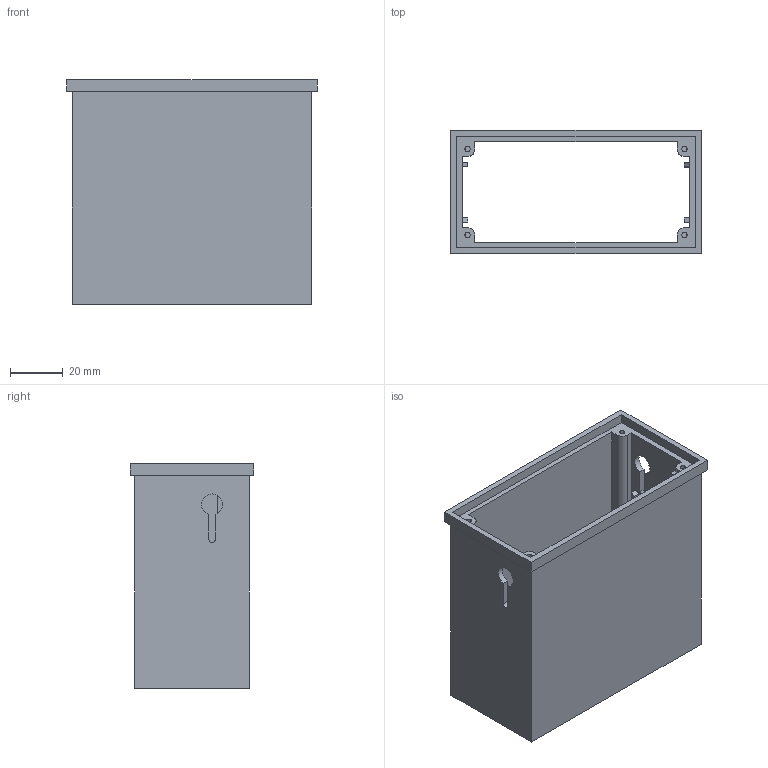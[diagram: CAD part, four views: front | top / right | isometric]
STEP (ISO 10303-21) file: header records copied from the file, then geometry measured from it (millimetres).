
FILE_DESCRIPTION (( 'STEP AP214' ), '1' );
FILE_NAME ('Caixa negre PP10.STEP', '2017-07-19T09:02:31', ( 'aaa' ), ( '' ), 'SwSTEP 2.0', 'SolidWorks 2013', '' );
FILE_SCHEMA (( 'AUTOMOTIVE_DESIGN' ));
Length unit declared in the file: millimetre
Products named in the file (1): Caixa negre PP10
Bounding box: 94.5 x 46.5 x 85 mm (x, y, z)
Volume: 60712.6 mm3; surface area: 47723.1 mm2
Topology: 1 solids, 1 shells, 87 faces, 222 edges, 148 vertices
Faces by surface type: plane 59, cylinder 28
Entity records: 2678 total; most frequent: CARTESIAN_POINT 458, DIRECTION 454, ORIENTED_EDGE 444, EDGE_CURVE 222, LINE 166, VECTOR 166, VERTEX_POINT 148, AXIS2_PLACEMENT_3D 144
